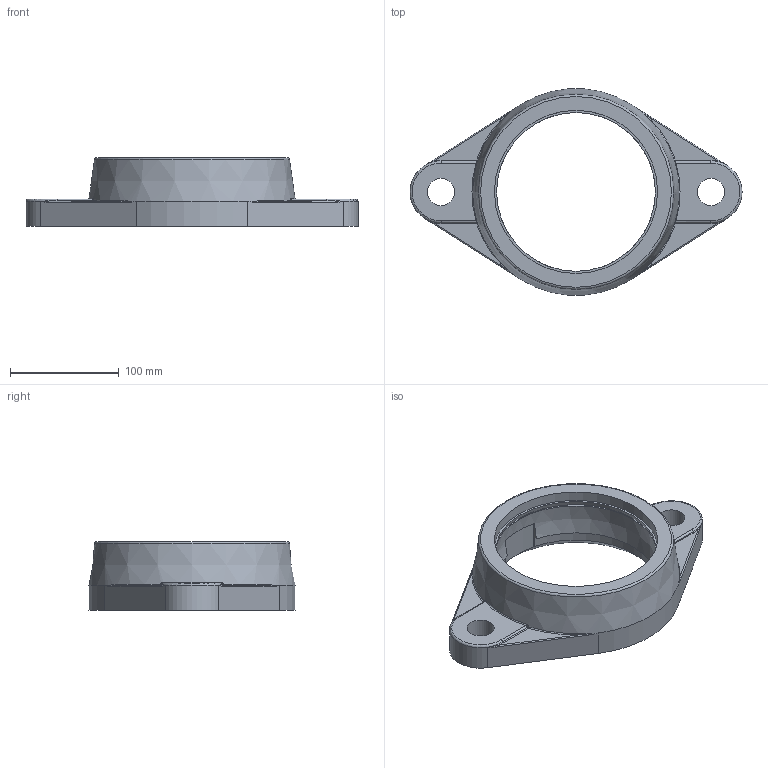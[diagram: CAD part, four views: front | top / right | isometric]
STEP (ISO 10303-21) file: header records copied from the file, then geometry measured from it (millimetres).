
FILE_DESCRIPTION(/* description */ (''),/* implementation_level */ '2;1');
FILE_NAME(/* name */ 'C:\MOJE SUBORY\03_Doplnenie 3D modelov\fmc\FM217.stp',/* time_stamp */ '2020-12-15T13:17:29+01:00',/* author */ ('OUPIONTEKM'),/* organization */ (''),/* preprocessor_version */ 'ST-DEVELOPER v18.1',/* originating_system */ 'Autodesk Inventor 2021',/* authorisation */ '');
FILE_SCHEMA (('AUTOMOTIVE_DESIGN { 1 0 10303 214 3 1 1 }'));
Length unit declared in the file: millimetre
Products named in the file (1): FM217
Bounding box: 305 x 189.38 x 63 mm (x, y, z)
Volume: 797033.2 mm3; surface area: 109900 mm2
Topology: 1 solids, 1 shells, 88 faces, 216 edges, 125 vertices
Faces by surface type: cylinder 24, plane 23, bspline 20, torus 13, sphere 6, cone 2
Full cylindrical faces by diameter (mm): 25 x2, 149.86 x1, 151.494 x1
Entity records: 3619 total; most frequent: CARTESIAN_POINT 1622, ORIENTED_EDGE 416, DIRECTION 404, EDGE_CURVE 208, AXIS2_PLACEMENT_3D 175, VERTEX_POINT 125, CIRCLE 106, EDGE_LOOP 97
